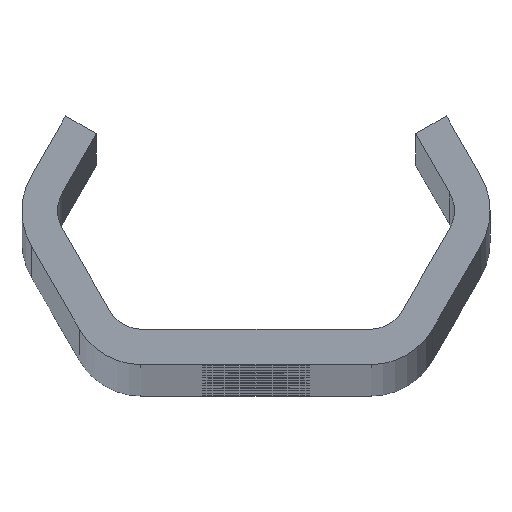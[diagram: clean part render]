
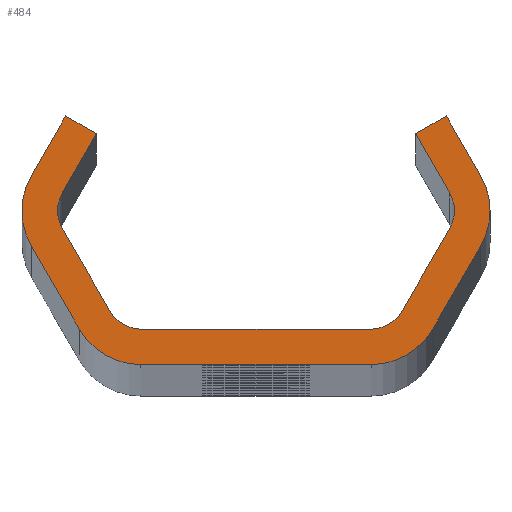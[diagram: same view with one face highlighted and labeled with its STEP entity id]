
A CAD part, top view. The second image highlights one B-rep face of the part: STEP entity #484.
In plain terms, the highlighted planar face has unit normal (0, 0, 1).
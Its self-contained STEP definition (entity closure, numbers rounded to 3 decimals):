
#484=ADVANCED_FACE('NONE',(#1323),#1324,.F.);
#1323=FACE_OUTER_BOUND('',#4191,.T.);
#1324=PLANE('',#4192);
#4191=EDGE_LOOP('',(#8456,#8457,#8458,#8459,#8460,#8461,#8462,#8463,#8464,#8465,#8466,#8467,#8468,#8469,#8470,#8471,#8472,#8473,#8474,#8475,#8476,#8477,#8478,#8479));
#4192=AXIS2_PLACEMENT_3D('',#8480,#8481,#8482);
#8456=ORIENTED_EDGE('',*,*,#11309,.T.);
#8457=ORIENTED_EDGE('',*,*,#11339,.T.);
#8458=ORIENTED_EDGE('',*,*,#11059,.T.);
#8459=ORIENTED_EDGE('',*,*,#11311,.T.);
#8460=ORIENTED_EDGE('',*,*,#11340,.T.);
#8461=ORIENTED_EDGE('',*,*,#11315,.T.);
#8462=ORIENTED_EDGE('',*,*,#11341,.T.);
#8463=ORIENTED_EDGE('',*,*,#11066,.T.);
#8464=ORIENTED_EDGE('',*,*,#11342,.T.);
#8465=ORIENTED_EDGE('',*,*,#10857,.T.);
#8466=ORIENTED_EDGE('',*,*,#11069,.T.);
#8467=ORIENTED_EDGE('',*,*,#11075,.T.);
#8468=ORIENTED_EDGE('',*,*,#11078,.T.);
#8469=ORIENTED_EDGE('',*,*,#11056,.T.);
#8470=ORIENTED_EDGE('',*,*,#11343,.T.);
#8471=ORIENTED_EDGE('',*,*,#11080,.T.);
#8472=ORIENTED_EDGE('',*,*,#11344,.T.);
#8473=ORIENTED_EDGE('',*,*,#11087,.T.);
#8474=ORIENTED_EDGE('',*,*,#11345,.T.);
#8475=ORIENTED_EDGE('',*,*,#11296,.T.);
#8476=ORIENTED_EDGE('',*,*,#11346,.T.);
#8477=ORIENTED_EDGE('',*,*,#10852,.T.);
#8478=ORIENTED_EDGE('',*,*,#11299,.T.);
#8479=ORIENTED_EDGE('',*,*,#11305,.T.);
#8480=CARTESIAN_POINT('',(0.0,0.0,1520.0));
#8481=DIRECTION('',(0.0,0.0,-1.0));
#8482=DIRECTION('',(0.0,-1.0,0.0));
#10852=EDGE_CURVE('NONE',#12106,#12110,#12112,.T.);
#10857=EDGE_CURVE('NONE',#12115,#12119,#12121,.T.);
#11056=EDGE_CURVE('NONE',#12479,#12477,#12480,.T.);
#11059=EDGE_CURVE('NONE',#12483,#12484,#12485,.T.);
#11066=EDGE_CURVE('NONE',#12497,#12495,#12498,.T.);
#11069=EDGE_CURVE('NONE',#12119,#12501,#12502,.T.);
#11075=EDGE_CURVE('NONE',#12501,#12509,#12511,.T.);
#11078=EDGE_CURVE('NONE',#12509,#12479,#12514,.T.);
#11080=EDGE_CURVE('NONE',#12516,#12517,#12518,.T.);
#11087=EDGE_CURVE('NONE',#12530,#12528,#12531,.T.);
#11296=EDGE_CURVE('NONE',#12918,#12916,#12919,.T.);
#11299=EDGE_CURVE('NONE',#12110,#12922,#12923,.T.);
#11305=EDGE_CURVE('NONE',#12922,#12930,#12932,.T.);
#11309=EDGE_CURVE('NONE',#12930,#12936,#12938,.T.);
#11311=EDGE_CURVE('NONE',#12484,#12940,#12941,.T.);
#11315=EDGE_CURVE('NONE',#12946,#12947,#12948,.T.);
#11339=EDGE_CURVE('NONE',#12936,#12483,#12974,.T.);
#11340=EDGE_CURVE('NONE',#12940,#12946,#12975,.T.);
#11341=EDGE_CURVE('NONE',#12947,#12497,#12976,.T.);
#11342=EDGE_CURVE('NONE',#12495,#12115,#12977,.T.);
#11343=EDGE_CURVE('NONE',#12477,#12516,#12978,.T.);
#11344=EDGE_CURVE('NONE',#12517,#12530,#12979,.T.);
#11345=EDGE_CURVE('NONE',#12528,#12918,#12980,.T.);
#11346=EDGE_CURVE('NONE',#12916,#12106,#12981,.T.);
#12106=VERTEX_POINT('',#13966);
#12110=VERTEX_POINT('NONE',#13971);
#12112=CIRCLE('',#13974,3.0);
#12115=VERTEX_POINT('',#13977);
#12119=VERTEX_POINT('NONE',#13982);
#12121=CIRCLE('',#13985,6.0);
#12477=VERTEX_POINT('NONE',#16129);
#12479=VERTEX_POINT('NONE',#16132);
#12480=CIRCLE('',#16133,3.0);
#12483=VERTEX_POINT('NONE',#16137);
#12484=VERTEX_POINT('NONE',#16138);
#12485=CIRCLE('',#16139,6.0);
#12495=VERTEX_POINT('NONE',#16152);
#12497=VERTEX_POINT('NONE',#16155);
#12498=LINE('',#16156,#16157);
#12501=VERTEX_POINT('NONE',#16161);
#12502=LINE('',#16162,#16163);
#12509=VERTEX_POINT('NONE',#16173);
#12511=LINE('',#16176,#16177);
#12514=LINE('',#16181,#16182);
#12516=VERTEX_POINT('NONE',#16184);
#12517=VERTEX_POINT('NONE',#16185);
#12518=LINE('',#16186,#16187);
#12528=VERTEX_POINT('NONE',#16201);
#12530=VERTEX_POINT('NONE',#16204);
#12531=LINE('',#16205,#16206);
#12916=VERTEX_POINT('NONE',#17593);
#12918=VERTEX_POINT('NONE',#17596);
#12919=LINE('',#17597,#17598);
#12922=VERTEX_POINT('NONE',#17602);
#12923=LINE('',#17603,#17604);
#12930=VERTEX_POINT('NONE',#17614);
#12932=LINE('',#17617,#17618);
#12936=VERTEX_POINT('NONE',#17623);
#12938=LINE('',#17626,#17627);
#12940=VERTEX_POINT('NONE',#17629);
#12941=LINE('',#17630,#17631);
#12946=VERTEX_POINT('NONE',#17638);
#12947=VERTEX_POINT('NONE',#17639);
#12948=LINE('',#17640,#17641);
#12974=CIRCLE('',#17670,6.0);
#12975=CIRCLE('',#17671,6.0);
#12976=CIRCLE('',#17672,6.0);
#12977=CIRCLE('',#17673,6.0);
#12978=CIRCLE('',#17674,3.0);
#12979=CIRCLE('',#17675,3.0);
#12980=CIRCLE('',#17676,3.0);
#12981=CIRCLE('',#17677,3.0);
#13966=CARTESIAN_POINT('',(-16.764,0.,1520.0));
#13971=CARTESIAN_POINT('',(-16.362,1.5,1520.0));
#13974=AXIS2_PLACEMENT_3D('',#20915,#20916,#20917);
#13977=CARTESIAN_POINT('',(19.764,0.,1520.0));
#13982=CARTESIAN_POINT('',(18.96,3.,1520.0));
#13985=AXIS2_PLACEMENT_3D('',#20923,#20924,#20925);
#16129=CARTESIAN_POINT('',(16.764,0.,1520.0));
#16132=CARTESIAN_POINT('',(16.362,1.5,1520.0));
#16133=AXIS2_PLACEMENT_3D('',#21122,#21123,#21124);
#16137=CARTESIAN_POINT('',(-19.764,0.,1520.0));
#16138=CARTESIAN_POINT('',(-18.96,-3.,1520.0));
#16139=AXIS2_PLACEMENT_3D('',#21126,#21127,#21128);
#16152=CARTESIAN_POINT('',(18.96,-3.,1520.0));
#16155=CARTESIAN_POINT('',(14.919,-10.,1520.0));
#16156=CARTESIAN_POINT('',(20.692,0.,1520.0));
#16157=VECTOR('',#21136,1000.0);
#16161=CARTESIAN_POINT('',(16.074,8.,1520.0));
#16162=CARTESIAN_POINT('',(16.074,8.,1520.0));
#16163=VECTOR('',#21138,1000.0);
#16173=CARTESIAN_POINT('',(13.475,6.5,1520.0));
#16176=CARTESIAN_POINT('',(13.475,6.5,1520.0));
#16177=VECTOR('',#21143,1000.0);
#16181=CARTESIAN_POINT('',(17.228,0.,1520.0));
#16182=VECTOR('',#21145,1000.0);
#16184=CARTESIAN_POINT('',(16.362,-1.5,1520.0));
#16185=CARTESIAN_POINT('',(12.321,-8.5,1520.0));
#16186=CARTESIAN_POINT('',(11.455,-10.0,1520.0));
#16187=VECTOR('',#21146,1000.0);
#16201=CARTESIAN_POINT('',(-9.723,-10.0,1520.0));
#16204=CARTESIAN_POINT('',(9.723,-10.0,1520.0));
#16205=CARTESIAN_POINT('',(-11.455,-10.0,1520.0));
#16206=VECTOR('',#21152,1000.0);
#17593=CARTESIAN_POINT('',(-16.362,-1.5,1520.0));
#17596=CARTESIAN_POINT('',(-12.321,-8.5,1520.0));
#17597=CARTESIAN_POINT('',(-17.228,0.,1520.0));
#17598=VECTOR('',#21378,1000.0);
#17602=CARTESIAN_POINT('',(-13.475,6.5,1520.0));
#17603=CARTESIAN_POINT('',(-13.475,6.5,1520.0));
#17604=VECTOR('',#21380,1000.0);
#17614=CARTESIAN_POINT('',(-16.074,8.,1520.0));
#17617=CARTESIAN_POINT('',(-13.475,6.5,1520.0));
#17618=VECTOR('',#21385,1000.0);
#17623=CARTESIAN_POINT('',(-18.96,3.,1520.0));
#17626=CARTESIAN_POINT('',(-16.074,8.,1520.0));
#17627=VECTOR('',#21388,1000.0);
#17629=CARTESIAN_POINT('',(-14.919,-10.,1520.0));
#17630=CARTESIAN_POINT('',(-20.692,0.,1520.0));
#17631=VECTOR('',#21389,1000.0);
#17638=CARTESIAN_POINT('',(-9.723,-13.0,1520.0));
#17639=CARTESIAN_POINT('',(9.723,-13.0,1520.0));
#17640=CARTESIAN_POINT('',(-13.187,-13.0,1520.0));
#17641=VECTOR('',#21392,1000.0);
#17670=AXIS2_PLACEMENT_3D('',#21453,#21454,#21455);
#17671=AXIS2_PLACEMENT_3D('',#21456,#21457,#21458);
#17672=AXIS2_PLACEMENT_3D('',#21459,#21460,#21461);
#17673=AXIS2_PLACEMENT_3D('',#21462,#21463,#21464);
#17674=AXIS2_PLACEMENT_3D('',#21465,#21466,#21467);
#17675=AXIS2_PLACEMENT_3D('',#21468,#21469,#21470);
#17676=AXIS2_PLACEMENT_3D('',#21471,#21472,#21473);
#17677=AXIS2_PLACEMENT_3D('',#21474,#21475,#21476);
#20915=CARTESIAN_POINT('',(-13.764,0.,1520.0));
#20916=DIRECTION('',(0.0,0.0,-1.0));
#20917=DIRECTION('',(-1.0,0.0,0.0));
#20923=CARTESIAN_POINT('',(13.764,0.,1520.0));
#20924=DIRECTION('',(0.0,0.0,1.0));
#20925=DIRECTION('',(-1.0,0.0,0.0));
#21122=CARTESIAN_POINT('',(13.764,0.,1520.0));
#21123=DIRECTION('',(0.0,0.0,-1.0));
#21124=DIRECTION('',(-1.0,0.0,0.0));
#21126=CARTESIAN_POINT('',(-13.764,0.,1520.0));
#21127=DIRECTION('',(0.0,0.0,1.0));
#21128=DIRECTION('',(-1.0,0.0,0.0));
#21136=DIRECTION('',(0.5,0.866,-0.0));
#21138=DIRECTION('',(-0.5,0.866,-0.0));
#21143=DIRECTION('',(-0.866,-0.5,-0.0));
#21145=DIRECTION('',(0.5,-0.866,-0.0));
#21146=DIRECTION('',(-0.5,-0.866,-0.0));
#21152=DIRECTION('',(-1.0,0.,-0.0));
#21378=DIRECTION('',(-0.5,0.866,-0.0));
#21380=DIRECTION('',(0.5,0.866,-0.0));
#21385=DIRECTION('',(-0.866,0.5,0.0));
#21388=DIRECTION('',(-0.5,-0.866,0.0));
#21389=DIRECTION('',(0.5,-0.866,0.0));
#21392=DIRECTION('',(1.0,0.0,0.0));
#21453=CARTESIAN_POINT('',(-13.764,0.,1520.0));
#21454=DIRECTION('',(0.0,0.0,1.0));
#21455=DIRECTION('',(-1.0,0.,0.0));
#21456=CARTESIAN_POINT('',(-9.723,-7.0,1520.0));
#21457=DIRECTION('',(0.0,0.0,1.0));
#21458=DIRECTION('',(-1.0,0.0,0.0));
#21459=CARTESIAN_POINT('',(9.723,-7.0,1520.0));
#21460=DIRECTION('',(0.0,0.0,1.0));
#21461=DIRECTION('',(-1.0,0.,0.0));
#21462=CARTESIAN_POINT('',(13.764,0.,1520.0));
#21463=DIRECTION('',(0.0,0.0,1.0));
#21464=DIRECTION('',(-1.0,0.0,0.0));
#21465=CARTESIAN_POINT('',(13.764,0.,1520.0));
#21466=DIRECTION('',(0.0,0.0,-1.0));
#21467=DIRECTION('',(-1.0,0.0,0.0));
#21468=CARTESIAN_POINT('',(9.723,-7.0,1520.0));
#21469=DIRECTION('',(0.0,0.0,-1.0));
#21470=DIRECTION('',(-1.0,0.0,0.0));
#21471=CARTESIAN_POINT('',(-9.723,-7.0,1520.0));
#21472=DIRECTION('',(0.0,0.0,-1.0));
#21473=DIRECTION('',(-1.0,0.0,0.0));
#21474=CARTESIAN_POINT('',(-13.764,0.,1520.0));
#21475=DIRECTION('',(0.0,0.0,-1.0));
#21476=DIRECTION('',(-1.0,0.0,0.0));
